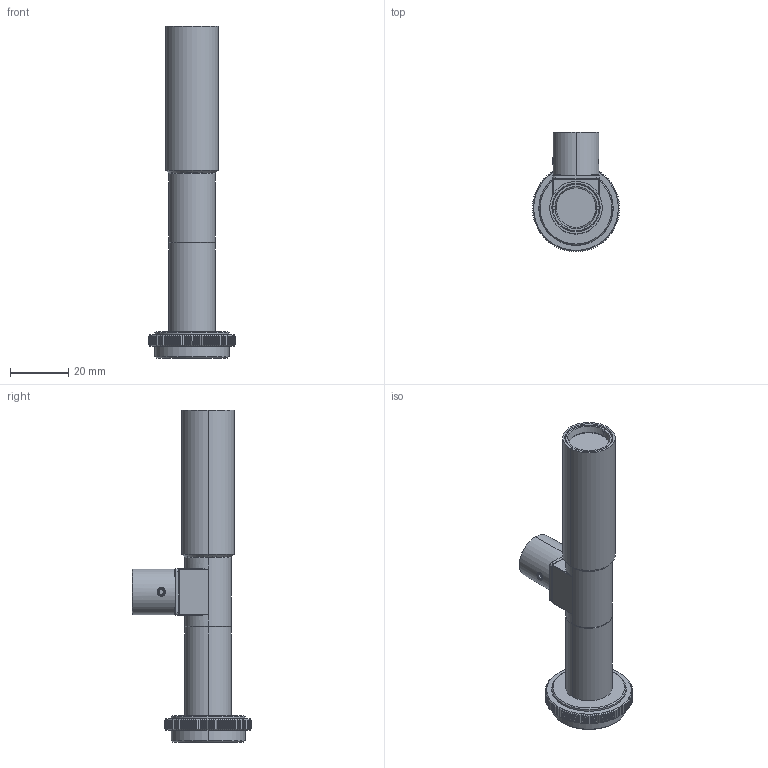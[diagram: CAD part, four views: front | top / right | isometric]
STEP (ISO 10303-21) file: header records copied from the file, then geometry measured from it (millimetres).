
FILE_DESCRIPTION (( 'STEP AP203' ), '1' );
FILE_NAME ('MML1-ST110D_A03362A0100101A-001.STEP', '2013-12-12T01:24:58', ( 'SCHOTT' ), ( 'SCHOTT' ), 'SwSTEP 2.0', 'SolidWorks 2011', '' );
FILE_SCHEMA (( 'CONFIG_CONTROL_DESIGN' ));
Length unit declared in the file: millimetre
Products named in the file (1): MML1-ST110D_A03362A0100101A-001
Bounding box: 30 x 41 x 113.83 mm (x, y, z)
Volume: 25372.1 mm3; surface area: 11364.5 mm2
Topology: 1 solids, 5 shells, 572 faces, 1491 edges, 938 vertices
Faces by surface type: plane 388, cone 102, cylinder 58, torus 16, sphere 8
Entity records: 18226 total; most frequent: CARTESIAN_POINT 5148, ORIENTED_EDGE 2966, DIRECTION 2375, EDGE_CURVE 1483, AXIS2_PLACEMENT_3D 949, VERTEX_POINT 938, B_SPLINE_CURVE_WITH_KNOTS 606, EDGE_LOOP 599
